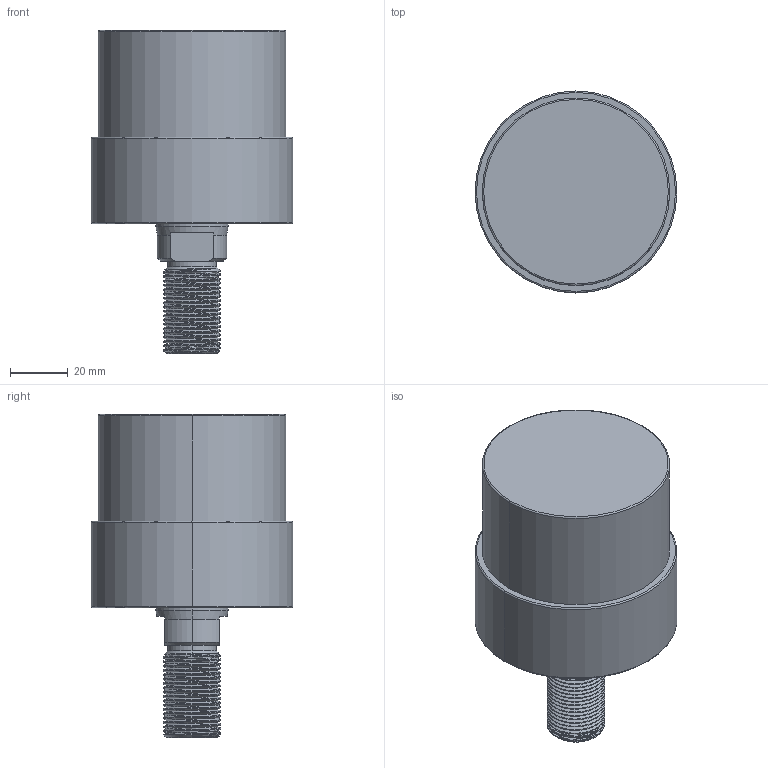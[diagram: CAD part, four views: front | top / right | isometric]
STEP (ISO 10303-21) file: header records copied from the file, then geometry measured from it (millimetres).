
FILE_DESCRIPTION (( 'STEP AP203' ), '1' );
FILE_NAME ('CLLU-065GT-020.STEP', '2020-01-16T00:59:01', ( '' ), ( '' ), 'SwSTEP 2.0', 'SolidWorks 2015', '' );
FILE_SCHEMA (( 'CONFIG_CONTROL_DESIGN' ));
Length unit declared in the file: millimetre
Products named in the file (1): CLLU-065GT-020
Bounding box: 70 x 70 x 112 mm (x, y, z)
Volume: 251147.7 mm3; surface area: 27073.7 mm2
Topology: 1 solids, 1 shells, 107 faces, 270 edges, 166 vertices
Faces by surface type: cylinder 61, cone 26, plane 12, torus 6, bspline 2
Entity records: 5351 total; most frequent: CARTESIAN_POINT 2950, ORIENTED_EDGE 524, DIRECTION 461, EDGE_CURVE 262, AXIS2_PLACEMENT_3D 184, VERTEX_POINT 166, EDGE_LOOP 116, ADVANCED_FACE 107
